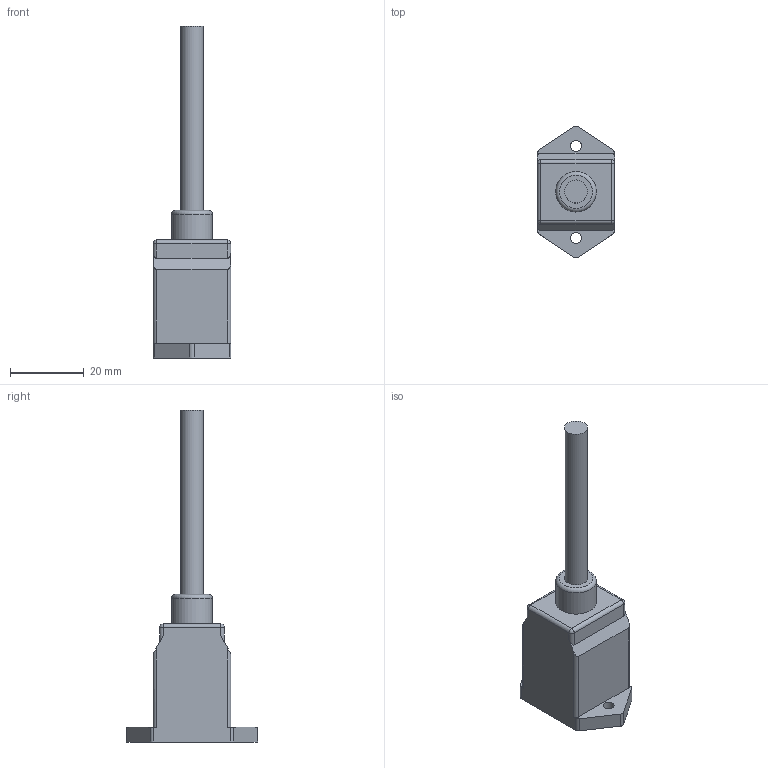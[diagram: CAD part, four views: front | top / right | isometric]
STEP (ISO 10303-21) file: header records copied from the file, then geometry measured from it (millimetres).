
FILE_DESCRIPTION(('FreeCAD Model'),'2;1');
FILE_NAME('Open CASCADE Shape Model','2026-06-09T12:32:20',(''),(''), 'Open CASCADE STEP processor 7.8','FreeCAD','Unknown');
FILE_SCHEMA(('AUTOMOTIVE_DESIGN { 1 0 10303 214 1 1 1 1 }'));
Length unit declared in the file: millimetre
Products named in the file (1): AC6AMF-PLXXXX_F
Bounding box: 21 x 35.59 x 90 mm (x, y, z)
Volume: 15574.1 mm3; surface area: 5468.2 mm2
Topology: 1 solids, 1 shells, 58 faces, 154 edges, 97 vertices
Faces by surface type: plane 31, cylinder 22, sphere 4, torus 1
Full cylindrical faces by diameter (mm): 3 x2, 6.2 x1, 11 x1
Entity records: 1798 total; most frequent: DIRECTION 314, CARTESIAN_POINT 306, ORIENTED_EDGE 300, EDGE_CURVE 150, AXIS2_PLACEMENT_3D 105, LINE 104, VECTOR 104, VERTEX_POINT 97
